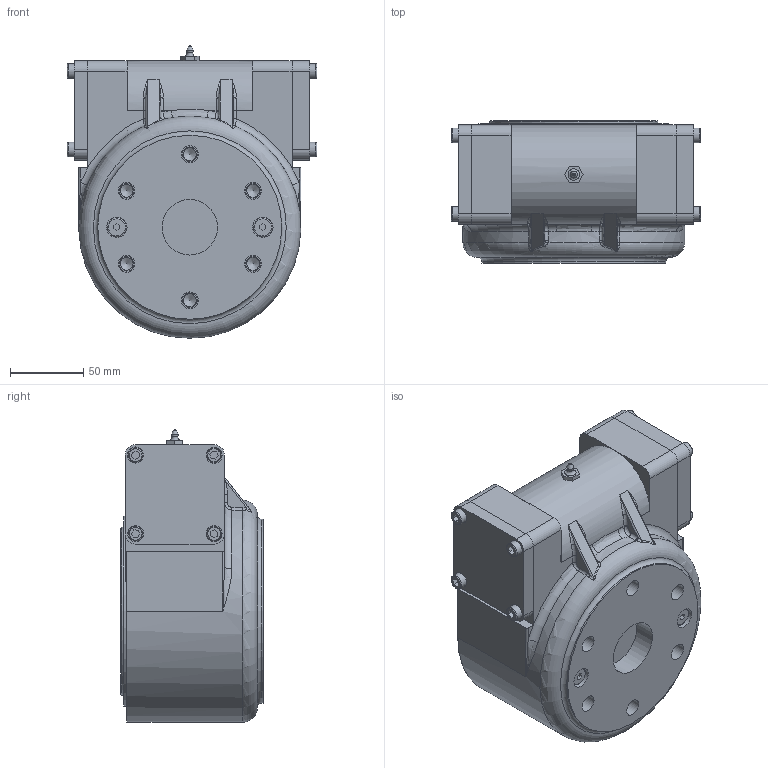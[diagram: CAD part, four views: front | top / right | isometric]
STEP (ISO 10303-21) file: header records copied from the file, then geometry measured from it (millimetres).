
FILE_DESCRIPTION (( 'STEP AP214' ), '1' );
FILE_NAME ('FGE3C-62M-12S-R-REV.A.STEP', '2023-12-20T08:26:19', ( '' ), ( '' ), 'SwSTEP 2.0', 'SolidWorks 2018', '' );
FILE_SCHEMA (( 'AUTOMOTIVE_DESIGN' ));
Length unit declared in the file: millimetre
Products named in the file (1): FGE3C-62M-12S-R-REV.A
Bounding box: 171 x 97.5 x 200.3 mm (x, y, z)
Volume: 2083567.2 mm3; surface area: 232304.8 mm2
Topology: 23 solids, 24 shells, 623 faces, 1317 edges, 829 vertices
Faces by surface type: plane 296, cylinder 197, cone 65, torus 34, bspline 30, sphere 1
Full cylindrical faces by diameter (mm): 4.8 x2, 5 x8, 6 x14, 6.6 x2, 6.8 x4, 7 x9, 7.42 x2, 8 x12, 8.5 x6, 8.8 x6, 10 x26, 11 x8, 11.5 x6, 13 x8, 14 x3, 15 x4, 18 x1, 25 x2, 32 x2, 38 x1, 39.7 x1, 46 x1, 52 x4, 55 x2, 58.3 x2, 59.088 x1, 65.3 x2, 74.129 x1, 80 x2, 115 x2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
Entity records: 24175 total; most frequent: CARTESIAN_POINT 4820, DIRECTION 2638, ORIENTED_EDGE 2022, AXIS2_PLACEMENT_3D 1104, EDGE_CURVE 1011, EDGE_LOOP 989, FACE_OUTER_BOUND 796, VERTEX_POINT 766
